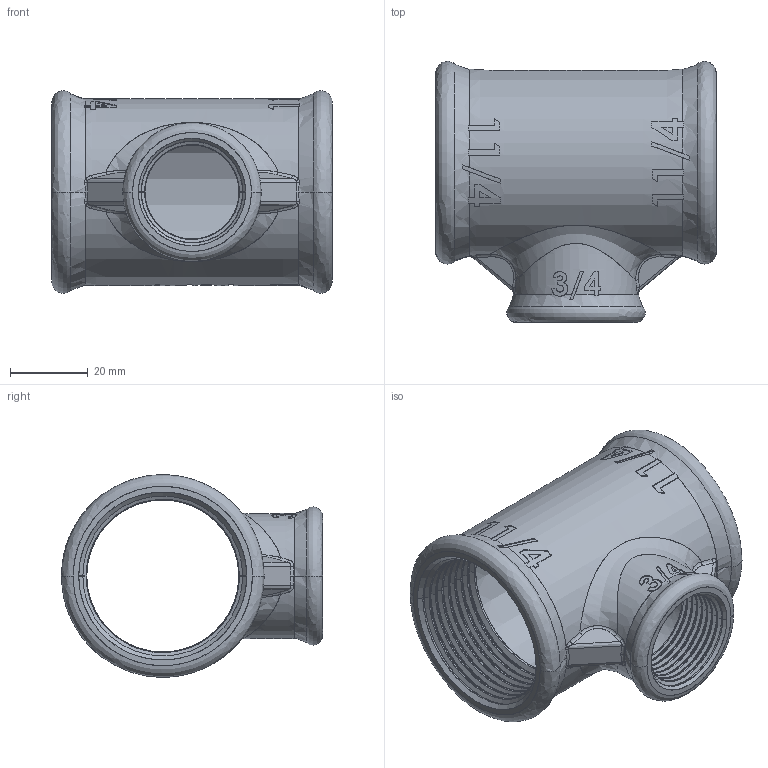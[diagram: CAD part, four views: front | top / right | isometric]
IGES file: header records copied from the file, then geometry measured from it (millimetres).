
Start section: SolidWorks IGES file using analytic representation for surfaces
Global section: file name: C:\Users\Joel Rosa\Desktop\Tubulação\12-45-XXX\12-45-036.IGS; native system: SolidWorks 2011; preprocessor: SolidWorks 2011; author: Joel Rosa; date: 121212.233528; units: millimetre
Bounding box: 72 x 67 x 52 mm (x, y, z)
Surface area: 28304.1 mm2 (no closed solid volume)
Topology: 0 solids, 0 shells, 502 faces, 4539 edges, 4539 vertices
Faces by surface type: bspline 363, revolution 139
